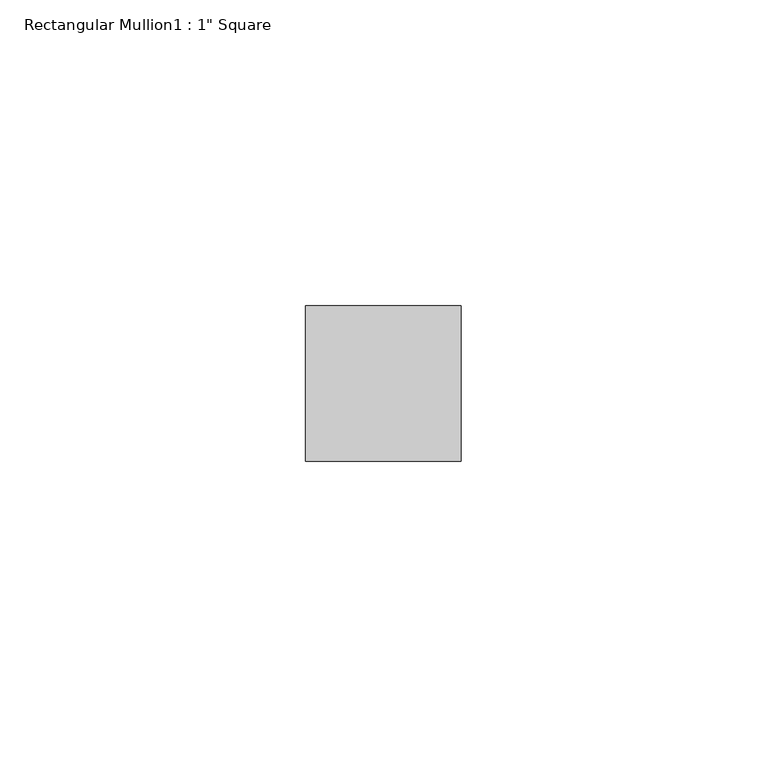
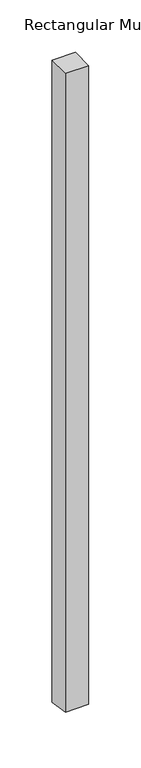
"""IFC4 building model written with IfcOpenShell, lengths in millimetres: member geometry."""

import ifcopenshell
import ifcopenshell.guid

model = None  # the IFC model being written
_history = None  # IfcOwnerHistory: only IFC2X3 demands one
_inside = {}  # id of a spatial element -> (the spatial element, [elements in it])
_under = {}  # id of a project, library or spatial element -> (it, [spatial elements below it])
_declared = {}  # id of a project -> (the project, [libraries it declares])
_typed = {}  # id of a type object -> (the type object, [elements of that type])
_made_of = {}  # id of a material, layer set ... -> (it, [elements and type objects made of it])


def new_model(schema):
    """Start an empty IFC model of exactly this schema.

    Asked for "IFC4X3", IfcOpenShell would pick the latest addendum, in which some entities
    have other attributes; the version numbers below select the first issue.
    IFC2X3 requires an IfcOwnerHistory on every rooted entity: one is made here for all.
    """
    global model, _history
    if schema == "IFC4X3":
        model = ifcopenshell.file(schema_version=(4, 3, 0, 0))
    else:
        model = ifcopenshell.file(schema=schema)
    _inside.clear()
    _under.clear()
    _declared.clear()
    _typed.clear()
    _made_of.clear()
    _history = None
    if model.schema == "IFC2X3":
        org = make("IfcOrganization", Name="unknown")
        user = make(
            "IfcPersonAndOrganization",
            ThePerson=make("IfcPerson", FamilyName="unknown"),
            TheOrganization=org,
        )
        app = make(
            "IfcApplication",
            ApplicationDeveloper=org,
            Version="unknown",
            ApplicationFullName="unknown",
            ApplicationIdentifier="unknown",
        )
        _history = make(
            "IfcOwnerHistory",
            OwningUser=user,
            OwningApplication=app,
            ChangeAction="ADDED",
            CreationDate=0,
        )
    return model


def make(cls, **values):
    """One entity of the class cls with the attributes given. An attribute that is None is left unset."""
    return model.create_entity(
        cls, **{name: value for name, value in values.items() if value is not None}
    )


def rooted(cls, **values):
    """An entity with a GlobalId (a new one), such as an element, a storey or a relation."""
    return make(cls, GlobalId=ifcopenshell.guid.new(), OwnerHistory=_history, **values)


def si_unit(unit_type, name, prefix=None):
    """IfcSIUnit, for example si_unit("LENGTHUNIT", "METRE", prefix="MILLI")."""
    return make("IfcSIUnit", UnitType=unit_type, Prefix=prefix, Name=name)


def assignment(units):
    """IfcUnitAssignment: the units of a project."""
    return None if units is None else make("IfcUnitAssignment", Units=units)


def point(xyz):
    """IfcCartesianPoint."""
    return None if xyz is None else make("IfcCartesianPoint", Coordinates=xyz)


def direction(xyz):
    """IfcDirection."""
    return None if xyz is None else make("IfcDirection", DirectionRatios=xyz)


def frame(location, z_axis=None, x_axis=None):
    """IfcAxis2Placement3D, a coordinate frame: its origin and axes. An axis left out is left unset."""
    return make(
        "IfcAxis2Placement3D",
        Location=point(location),
        Axis=direction(z_axis),
        RefDirection=direction(x_axis),
    )


def origin():
    """The frame at (0, 0, 0) with its axes left unset."""
    return frame((0.0, 0.0, 0.0))


def place(relative_to, where):
    """IfcLocalPlacement: puts the frame where relative to a parent placement (None: the world)."""
    return make(
        "IfcLocalPlacement", PlacementRelTo=relative_to, RelativePlacement=where
    )


def context(
    kind, dimensions, precision=None, world=None, true_north=None, identifier=None
):
    """IfcGeometricRepresentationContext, for example the 3D "Model" context."""
    return make(
        "IfcGeometricRepresentationContext",
        ContextIdentifier=identifier,
        ContextType=kind,
        CoordinateSpaceDimension=dimensions,
        Precision=precision,
        WorldCoordinateSystem=world,
        TrueNorth=true_north,
    )


def project(units=None, contexts=None):
    """IfcProject with its units and contexts."""
    return rooted(
        "IfcProject",
        Name="project",
        RepresentationContexts=contexts,
        UnitsInContext=assignment(units),
    )


def spatial(cls, under=None, at=None, **own):
    """A site, building, storey or space (cls), placed at a placement, below another one or the project."""
    s = rooted(cls, ObjectPlacement=at, **own)
    if under is not None:
        _under.setdefault(under.id(), (under, []))[1].append(s)
    return s


def polyline(points):
    """IfcPolyline through the points."""
    return make("IfcPolyline", Points=[point(p) for p in points])


def outline(outer, holes=None, kind="AREA"):
    """IfcArbitraryClosedProfileDef: a profile drawn as a closed curve; with holes, ...WithVoids."""
    if holes is None:
        return make("IfcArbitraryClosedProfileDef", ProfileType=kind, OuterCurve=outer)
    return make(
        "IfcArbitraryProfileDefWithVoids",
        ProfileType=kind,
        OuterCurve=outer,
        InnerCurves=holes,
    )


def extrude(swept, where, along, depth):
    """IfcExtrudedAreaSolid: the profile swept, set in the frame where, extruded along a direction by depth."""
    return make(
        "IfcExtrudedAreaSolid",
        SweptArea=swept,
        Position=where,
        ExtrudedDirection=direction(along),
        Depth=depth,
    )


def shape(context_of_items, identifier, shape_type, items):
    """IfcShapeRepresentation: the items that make up one representation, for example the "Body"."""
    return make(
        "IfcShapeRepresentation",
        ContextOfItems=context_of_items,
        RepresentationIdentifier=identifier,
        RepresentationType=shape_type,
        Items=items,
    )


def source(mapping_origin, context_of_items, identifier, shape_type, items):
    """IfcRepresentationMap: a shape defined once, which mapped items show again and again."""
    return make(
        "IfcRepresentationMap",
        MappingOrigin=mapping_origin,
        MappedRepresentation=shape(context_of_items, identifier, shape_type, items),
    )


def transform(
    local_origin,
    x_axis=None,
    y_axis=None,
    z_axis=None,
    scale=None,
    scale2=None,
    scale3=None,
    uniform=True,
):
    """IfcCartesianTransformationOperator3D, or its non-uniform kind. x_axis, y_axis, z_axis: its Axis1, 2, 3."""
    if uniform:
        return make(
            "IfcCartesianTransformationOperator3D",
            Axis1=direction(x_axis),
            Axis2=direction(y_axis),
            LocalOrigin=point(local_origin),
            Scale=scale,
            Axis3=direction(z_axis),
        )
    return make(
        "IfcCartesianTransformationOperator3DnonUniform",
        Axis1=direction(x_axis),
        Axis2=direction(y_axis),
        LocalOrigin=point(local_origin),
        Scale=scale,
        Axis3=direction(z_axis),
        Scale2=scale2,
        Scale3=scale3,
    )


def mapped(mapping_source, mapping_target):
    """IfcMappedItem: shows the shape of a source again, moved by a transform."""
    return make(
        "IfcMappedItem", MappingSource=mapping_source, MappingTarget=mapping_target
    )


def made_of(thing, what):
    """Note that an element or type object is made of a material, layer set ...; save() writes the relation."""
    if what is not None:
        _made_of.setdefault(what.id(), (what, []))[1].append(thing)
    return thing


def element(
    cls,
    number,
    at=None,
    inside=None,
    cuts=None,
    type_object=None,
    material=None,
    context=None,
    identifier="Body",
    shape_type=None,
    held_by="IfcProductDefinitionShape",
    body=None,
    shapes=None,
    **own,
):
    """One element of the class cls, such as IfcWall. Its Tag is "e" and its number.

    at: its placement. inside: the storey or other place that contains it. cuts: it is an
    opening in that element (IfcRelVoidsElement). A single representation is given by context,
    identifier, shape_type and body (its items); several are given by shapes. held_by: the class
    of the entity that holds the representations. save() writes the other relations.
    """
    e = rooted(cls, Tag="e%d" % number, ObjectPlacement=at, **own)
    if body is not None:
        shapes = [shape(context, identifier, shape_type, body)]
    if shapes is not None:
        e.Representation = make(held_by, Representations=shapes)
    if inside is not None:
        _inside.setdefault(inside.id(), (inside, []))[1].append(e)
    if cuts is not None:
        rooted(
            "IfcRelVoidsElement", RelatingBuildingElement=cuts, RelatedOpeningElement=e
        )
    if type_object is not None:
        _typed.setdefault(type_object.id(), (type_object, []))[1].append(e)
    return made_of(e, material)


def aggregate(whole, parts):
    """IfcRelAggregates: a whole, such as a stair, and the parts it consists of."""
    return rooted("IfcRelAggregates", RelatingObject=whole, RelatedObjects=parts)


def save(model, path):
    """Write the relations noted so far, then the file.

    IfcRelAggregates (storeys below a building ...), IfcRelContainedInSpatialStructure (elements
    in a storey), IfcRelDefinesByType, IfcRelAssociatesMaterial and IfcRelDeclares: one each for
    every whole, place, type object, material and project.
    """
    for whole, parts in _under.values():
        aggregate(whole, parts)
    for where, things in _inside.values():
        rooted(
            "IfcRelContainedInSpatialStructure",
            RelatedElements=things,
            RelatingStructure=where,
        )
    for kind, things in _typed.values():
        rooted("IfcRelDefinesByType", RelatedObjects=things, RelatingType=kind)
    for what, things in _made_of.values():
        rooted("IfcRelAssociatesMaterial", RelatedObjects=things, RelatingMaterial=what)
    for by, libraries in _declared.values():
        rooted("IfcRelDeclares", RelatingContext=by, RelatedDefinitions=libraries)
    model.write(path)


def member_b5c0ee63(model_context):
    return source(origin(), model_context, "Body", "SweptSolid", [
        extrude(outline(polyline([(-44.45, 0.0), (-19.05, 0.0), (-19.05, -746.7183041), (-44.45, -742.6924493), (-44.45, 0.0)])), frame((-12.7, 0.0, 0.0), z_axis=(1.0, 0.0, 0.0), x_axis=(0.0, 1.0, 0.0)), (0.0, 0.0, 1.0), 25.4),
    ])


if __name__ == "__main__":
    model = new_model("IFC4")
    model_context = context("Model", 3, world=origin())
    ifc_project = project(units=[si_unit("LENGTHUNIT", "METRE", prefix="MILLI")], contexts=[model_context])
    site = spatial("IfcSite", under=ifc_project)
    building = spatial("IfcBuilding", under=site)
    placement = place(None, origin())
    member_shape = member_b5c0ee63(model_context)
    element("IfcMember", 1, ObjectType="Rectangular Mullion1 : 1\" Square", at=placement, inside=building, context=model_context, shape_type="MappedRepresentation", body=[
        mapped(member_shape, transform((0.0, 0.0, 0.0), x_axis=(1.0, 0.0, 0.0), y_axis=(0.0, 1.0, 0.0), z_axis=(0.0, 0.0, 1.0))),
    ])
    save(model, "model.ifc")
